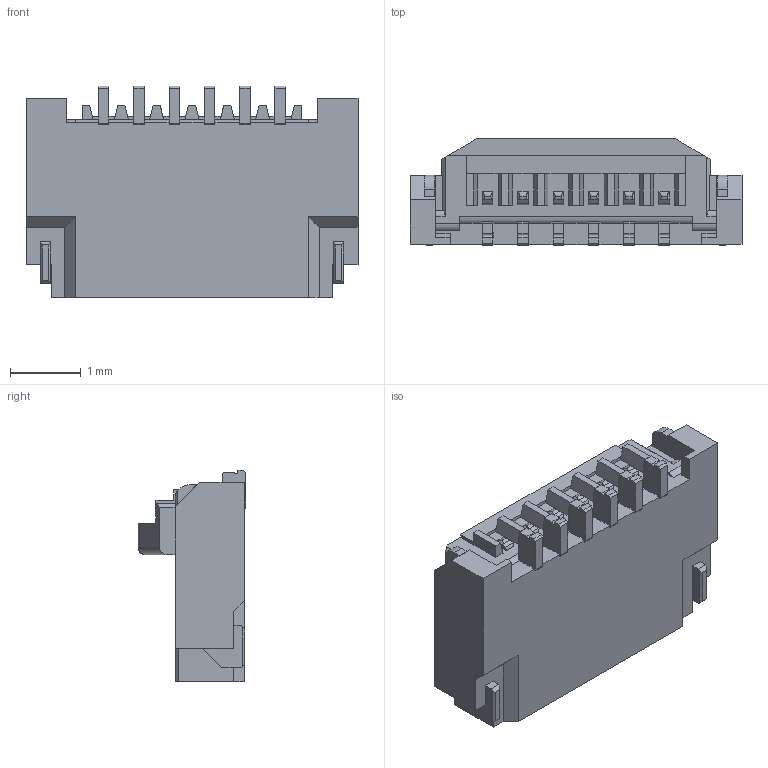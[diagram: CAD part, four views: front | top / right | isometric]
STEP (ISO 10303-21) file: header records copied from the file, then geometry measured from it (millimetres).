
FILE_DESCRIPTION (( 'STEP AP203' ), '1' );
FILE_NAME ('20542-006E-01C ACT OPEN STEP R1 ALL.STEP', '2013-02-12T10:14:04', ( '' ), ( '' ), 'SwSTEP 2.0', 'SolidWorks 2011', '' );
FILE_SCHEMA (( 'CONFIG_CONTROL_DESIGN' ));
Length unit declared in the file: millimetre
Products named in the file (1): 20542-006E-01C ACT OPEN STEP R1 ALL
Bounding box: 4.7 x 1.52 x 3 mm (x, y, z)
Volume: 12.2 mm3; surface area: 48.2 mm2
Topology: 1 solids, 1 shells, 279 faces, 831 edges, 546 vertices
Faces by surface type: plane 217, cylinder 60, sphere 2
Entity records: 9340 total; most frequent: CARTESIAN_POINT 1745, ORIENTED_EDGE 1658, DIRECTION 1475, EDGE_CURVE 829, VECTOR 683, LINE 683, VERTEX_POINT 546, AXIS2_PLACEMENT_3D 396
